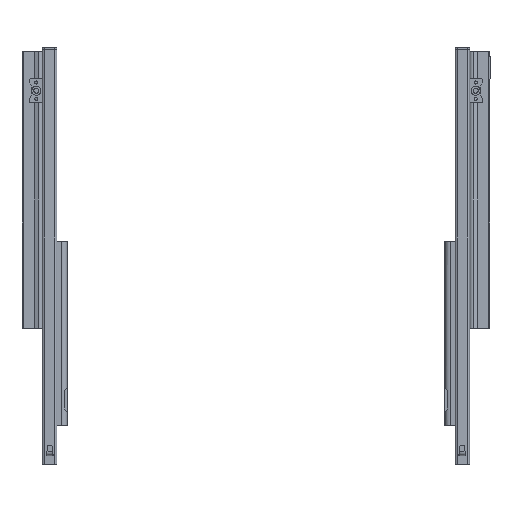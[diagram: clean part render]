
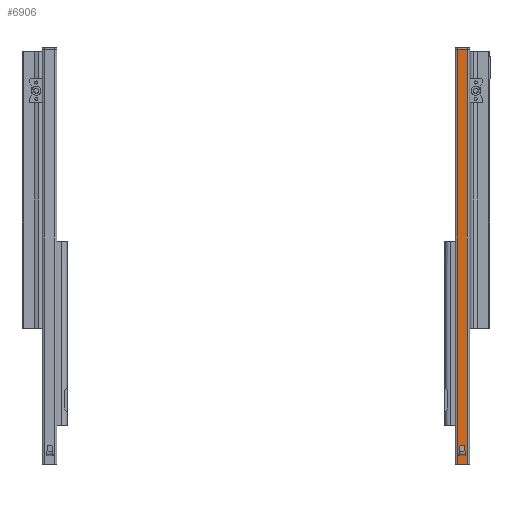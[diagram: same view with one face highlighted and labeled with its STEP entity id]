
A CAD part, front view. The second image highlights one B-rep face of the part: STEP entity #6906.
In plain terms, the highlighted planar face has unit normal (0, -1, 0).
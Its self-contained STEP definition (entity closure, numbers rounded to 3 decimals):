
#126=FACE_BOUND('',#950,.T.);
#516=FACE_OUTER_BOUND('',#949,.T.);
#949=EDGE_LOOP('',(#5133,#5134,#5135,#5136));
#950=EDGE_LOOP('',(#5137,#5138,#5139,#5140));
#1444=LINE('',#10423,#2074);
#1447=LINE('',#10429,#2077);
#1450=LINE('',#10461,#2080);
#1453=LINE('',#10468,#2083);
#1510=LINE('',#10655,#2140);
#1511=LINE('',#10659,#2141);
#1512=LINE('',#10661,#2142);
#1513=LINE('',#10662,#2143);
#2074=VECTOR('',#8436,10.);
#2077=VECTOR('',#8441,10.);
#2080=VECTOR('',#8446,10.);
#2083=VECTOR('',#8457,10.);
#2140=VECTOR('',#8648,10.);
#2141=VECTOR('',#8653,10.);
#2142=VECTOR('',#8654,10.);
#2143=VECTOR('',#8655,10.);
#2990=VERTEX_POINT('',#10420);
#2991=VERTEX_POINT('',#10422);
#2993=VERTEX_POINT('',#10428);
#2994=VERTEX_POINT('',#10460);
#3056=VERTEX_POINT('',#10652);
#3057=VERTEX_POINT('',#10654);
#3058=VERTEX_POINT('',#10658);
#3059=VERTEX_POINT('',#10660);
#3721=EDGE_CURVE('',#2990,#2991,#1444,.T.);
#3724=EDGE_CURVE('',#2991,#2993,#1447,.T.);
#3728=EDGE_CURVE('',#2993,#2994,#1450,.T.);
#3731=EDGE_CURVE('',#2994,#2990,#1453,.T.);
#3820=EDGE_CURVE('',#3056,#3057,#1510,.T.);
#3822=EDGE_CURVE('',#3056,#3058,#1511,.T.);
#3823=EDGE_CURVE('',#3058,#3059,#1512,.T.);
#3824=EDGE_CURVE('',#3059,#3057,#1513,.T.);
#5133=ORIENTED_EDGE('',*,*,#3822,.T.);
#5134=ORIENTED_EDGE('',*,*,#3823,.T.);
#5135=ORIENTED_EDGE('',*,*,#3824,.T.);
#5136=ORIENTED_EDGE('',*,*,#3820,.F.);
#5137=ORIENTED_EDGE('',*,*,#3721,.F.);
#5138=ORIENTED_EDGE('',*,*,#3731,.F.);
#5139=ORIENTED_EDGE('',*,*,#3728,.F.);
#5140=ORIENTED_EDGE('',*,*,#3724,.F.);
#6267=PLANE('',#7435);
#6906=ADVANCED_FACE('',(#516,#126),#6267,.F.);
#7435=AXIS2_PLACEMENT_3D('',#10657,#8651,#8652);
#8436=DIRECTION('',(0.,0.,-1.));
#8441=DIRECTION('',(1.,0.,0.));
#8446=DIRECTION('',(0.,0.,1.));
#8457=DIRECTION('',(-1.,0.,0.));
#8648=DIRECTION('',(0.,0.,-1.));
#8651=DIRECTION('center_axis',(0.,1.,0.));
#8652=DIRECTION('ref_axis',(1.,0.,0.));
#8653=DIRECTION('',(-1.,0.,0.));
#8654=DIRECTION('',(0.,0.,-1.));
#8655=DIRECTION('',(1.,0.,0.));
#10420=CARTESIAN_POINT('',(38.034,8.,-287.097));
#10422=CARTESIAN_POINT('',(38.034,8.,-288.597));
#10423=CARTESIAN_POINT('',(38.034,8.,-89.597));
#10428=CARTESIAN_POINT('',(44.652,8.,-288.597));
#10429=CARTESIAN_POINT('',(38.843,8.,-288.597));
#10460=CARTESIAN_POINT('',(44.652,8.,-287.097));
#10461=CARTESIAN_POINT('',(44.652,8.,-89.597));
#10468=CARTESIAN_POINT('',(38.843,8.,-287.097));
#10652=CARTESIAN_POINT('',(46.343,8.,107.903));
#10654=CARTESIAN_POINT('',(46.343,8.,-297.097));
#10655=CARTESIAN_POINT('',(46.343,8.,107.903));
#10657=CARTESIAN_POINT('Origin',(36.343,8.,107.903));
#10658=CARTESIAN_POINT('',(36.343,8.,107.903));
#10659=CARTESIAN_POINT('',(46.343,8.,107.903));
#10660=CARTESIAN_POINT('',(36.343,8.,-297.097));
#10661=CARTESIAN_POINT('',(36.343,8.,107.903));
#10662=CARTESIAN_POINT('',(46.343,8.,-297.097));
